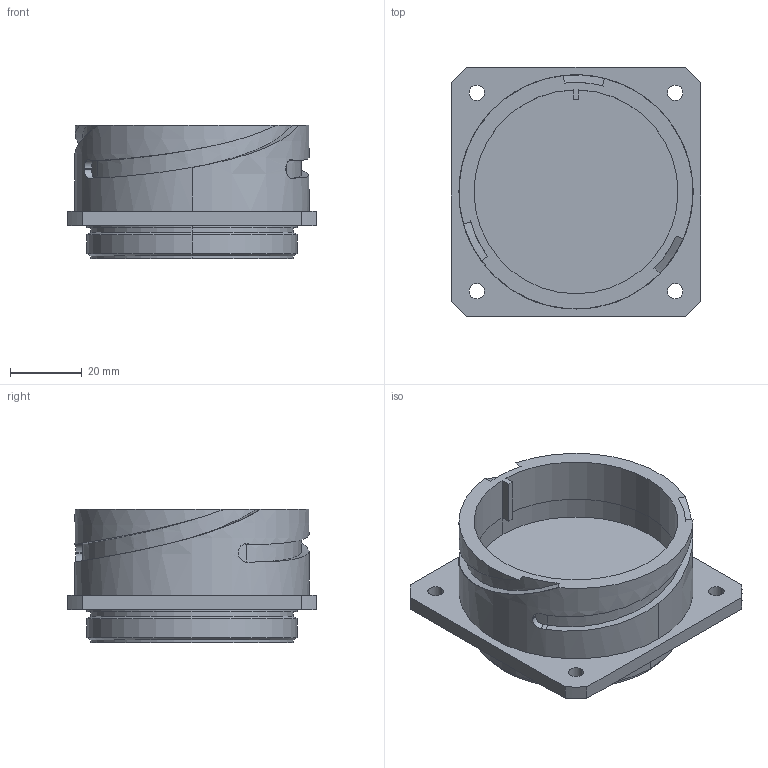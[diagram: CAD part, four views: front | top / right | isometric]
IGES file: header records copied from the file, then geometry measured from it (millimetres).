
Start section:  PTC IGES file: gt030_40_shell.igs
Global section: file name: gt030_40_shell.igs; native system: Creo Parametric by PTC Inc.; preprocessor: 2016260; author: t-nakamura; organization: Unknown; date: 20170622.205017; units: inch
Bounding box: 69.85 x 69.85 x 37.31 mm (x, y, z)
Surface area: 23499.4 mm2 (no closed solid volume)
Topology: 0 solids, 0 shells, 73 faces, 360 edges, 360 vertices
Faces by surface type: revolution 37, bspline 36
